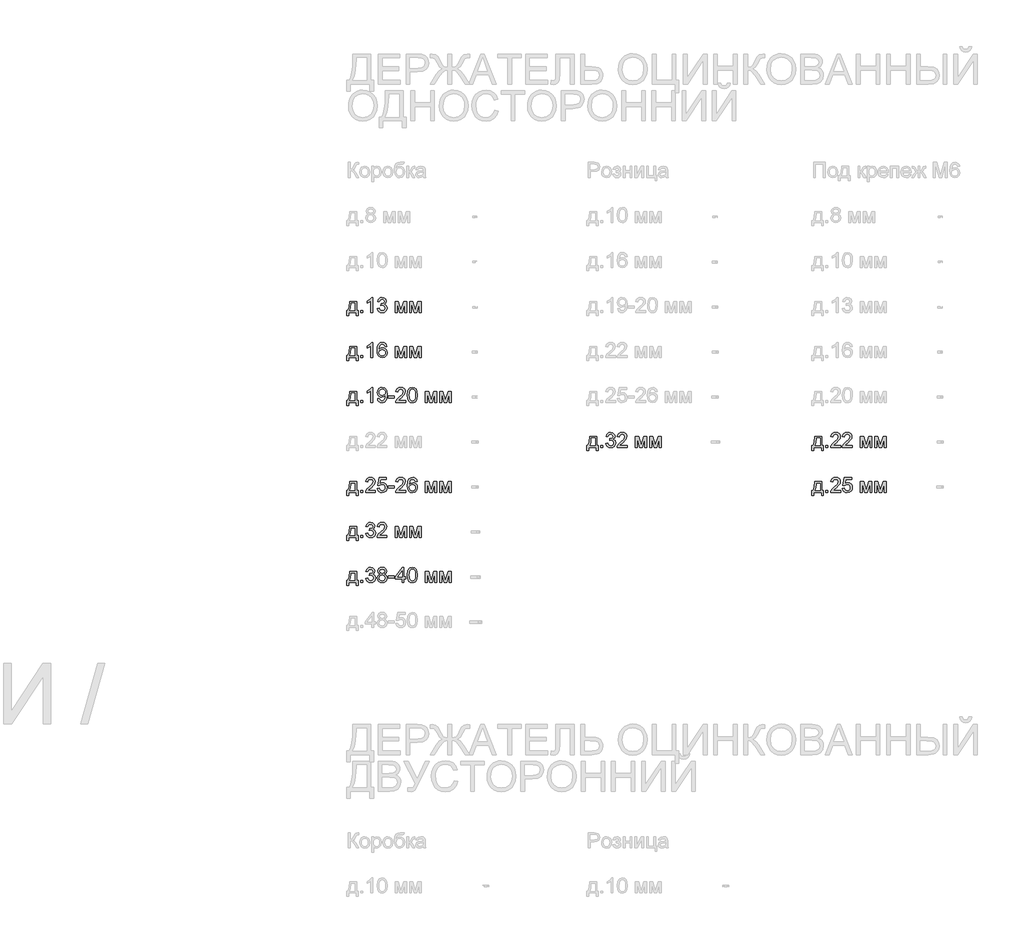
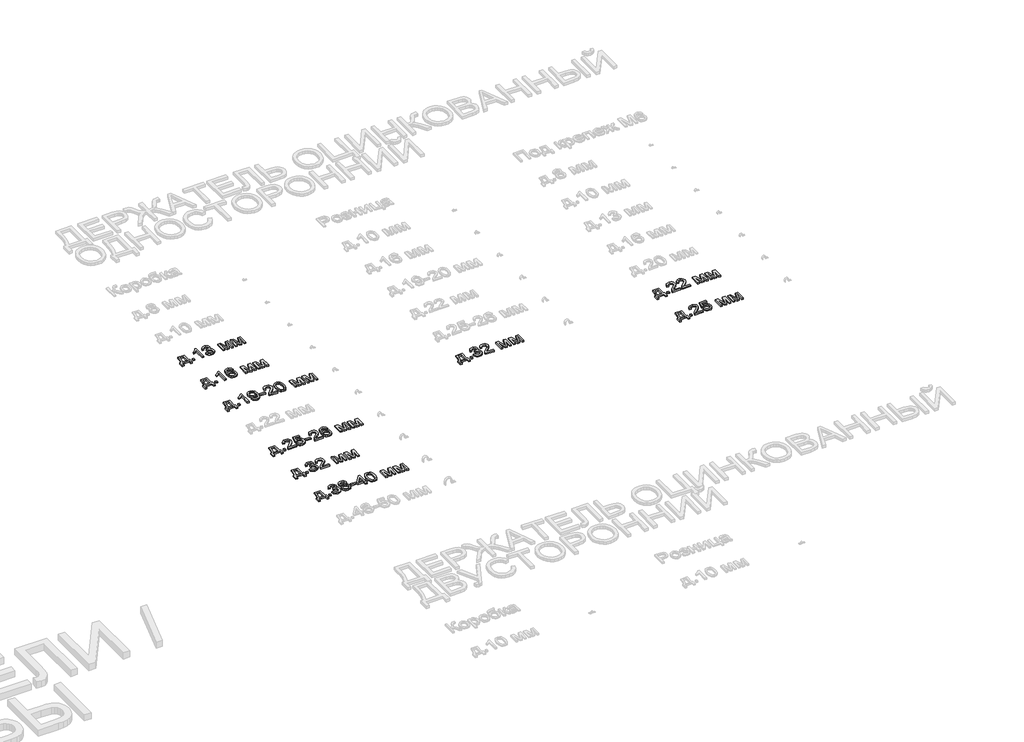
# One storey, part 38 of 98: 9 proxies.
"""IFC4 building model written with IfcOpenShell, lengths in millimetres."""

from ifc_helpers import new_model, si_unit, origin, origin_with_axes, place, context, project, spatial, polyline, outline, extrude, element, save

model = new_model("IFC4")

# Units and contexts
model_context = context("Model", 3, world=origin())
ifc_project = project(units=[si_unit("LENGTHUNIT", "METRE", prefix="MILLI")], contexts=[model_context])

# Site, building, storey
site = spatial("IfcSite", under=ifc_project)
building = spatial("IfcBuilding", under=site)
storey = spatial("IfcBuildingStorey", under=building, Name="Этаж 01", Elevation=0.0)

# Proxies
placement = place(None, origin())
element("IfcBuildingElementProxy", 1, Name="100", ObjectType="100", at=placement, inside=storey, context=model_context, shape_type="SweptSolid", body=[
    extrude(outline(polyline([(-26.9858135, -33085.7395637), (20.1030819, -33085.7395637), (20.1030819, -33146.9551277), (29.520861, -33146.9551277), (29.520861, -33179.9173545), (16.9638222, -33179.9173545), (16.9638222, -33159.5121665), (-34.8339627, -33159.5121665), (-34.8339627, -33179.9173545), (-47.3910015, -33179.9173545), (-47.3910015, -33146.9551277), (-39.5428522, -33146.9551277), (-29.8430303, -33123.0060098), (-26.9858135, -33085.7395637)]), holes=[polyline([(-15.9984045, -33098.2966025), (-18.9414605, -33126.905559), (-25.4161836, -33146.9551277), (7.5460431, -33146.9551277), (7.5460431, -33098.2966025), (-15.9984045, -33098.2966025)])]), origin_with_axes(), (0.0, 0.0, 1.0), 10.0),
    extrude(outline(polyline([(46.7867893, -33159.5121665), (46.7867893, -33146.9551277), (59.3438281, -33146.9551277), (59.3438281, -33159.5121665), (46.7867893, -33159.5121665)])), origin_with_axes(), (0.0, 0.0, 1.0), 10.0),
    extrude(outline(polyline([(126.8379114, -33159.5121665), (114.2808727, -33159.5121665), (114.2808727, -33081.2268779), (102.3860215, -33089.7004265), (89.1667951, -33096.0402596), (89.1667951, -33084.1699338), (107.5731576, -33072.4222355), (118.7445076, -33059.0558563), (126.8379114, -33059.0558563), (126.8379114, -33159.5121665)])), origin_with_axes(), (0.0, 0.0, 1.0), 10.0),
    extrude(outline(polyline([(156.6608785, -33132.8284591), (169.2179173, -33131.2588292), (176.1463615, -33144.4780556), (189.1080705, -33148.5247575), (197.7165092, -33147.1329373), (204.3629106, -33142.9574767), (210.0282933, -33129.1741646), (204.4119615, -33116.1879302), (190.1381401, -33111.049845), (181.3334977, -33112.4232711), (182.7314492, -33099.8662323), (184.7425375, -33100.0133851), (198.9918334, -33096.4081416), (203.7375112, -33091.8341421), (205.3194038, -33085.3226308), (200.7331415, -33075.5001815), (188.9118668, -33071.6128951), (176.9434392, -33075.5369697), (170.7875471, -33087.3091935), (158.2305084, -33085.7395637), (161.9277224, -33074.4639805), (168.5066788, -33066.0456142), (177.5075249, -33060.8032958), (188.4704084, -33059.0558563), (203.6148838, -33062.5016843), (214.2098853, -33071.9194634), (217.8764425, -33084.5868668), (214.3938263, -33096.1628869), (204.0931304, -33104.47702), (217.7783407, -33113.0609332), (222.5853321, -33129.3948938), (220.1818364, -33141.6331015), (212.9713493, -33151.860221), (202.0881736, -33158.7764025), (188.6666121, -33161.0817963), (176.5265063, -33159.1136276), (166.6427433, -33153.2091216), (159.7694814, -33144.1776186), (156.6608785, -33132.8284591)])), origin_with_axes(), (0.0, 0.0, 1.0), 10.0),
    extrude(outline(polyline([(275.9527468, -33085.7395637), (297.5596827, -33085.7395637), (314.2124743, -33144.7968867), (332.1651157, -33085.7395637), (352.8646093, -33085.7395637), (352.8646093, -33159.5121665), (340.3075705, -33159.5121665), (340.3075705, -33100.111487), (322.2568273, -33159.5121665), (305.7757139, -33159.5121665), (288.5097856, -33097.2665329), (288.5097856, -33159.5121665), (275.9527468, -33159.5121665), (275.9527468, -33085.7395637)])), origin_with_axes(), (0.0, 0.0, 1.0), 10.0),
    extrude(outline(polyline([(371.7001674, -33085.7395637), (393.3071033, -33085.7395637), (409.9598949, -33144.7968867), (427.9125363, -33085.7395637), (448.6120299, -33085.7395637), (448.6120299, -33159.5121665), (436.0549911, -33159.5121665), (436.0549911, -33100.111487), (418.0042479, -33159.5121665), (401.5231345, -33159.5121665), (384.2572062, -33097.2665329), (384.2572062, -33159.5121665), (371.7001674, -33159.5121665), (371.7001674, -33085.7395637)])), origin_with_axes(), (0.0, 0.0, 1.0), 10.0),
])
element("IfcBuildingElementProxy", 2, Name="100", ObjectType="100", at=placement, inside=storey, context=model_context, shape_type="SweptSolid", body=[
    extrude(outline(polyline([(-26.9858135, -33385.7395637), (20.1030819, -33385.7395637), (20.1030819, -33446.9551277), (29.520861, -33446.9551277), (29.520861, -33479.9173545), (16.9638222, -33479.9173545), (16.9638222, -33459.5121665), (-34.8339627, -33459.5121665), (-34.8339627, -33479.9173545), (-47.3910015, -33479.9173545), (-47.3910015, -33446.9551277), (-39.5428522, -33446.9551277), (-29.8430303, -33423.0060098), (-26.9858135, -33385.7395637)]), holes=[polyline([(-15.9984045, -33398.2966025), (-18.9414605, -33426.905559), (-25.4161836, -33446.9551277), (7.5460431, -33446.9551277), (7.5460431, -33398.2966025), (-15.9984045, -33398.2966025)])]), origin_with_axes(), (0.0, 0.0, 1.0), 10.0),
    extrude(outline(polyline([(46.7867893, -33459.5121665), (46.7867893, -33446.9551277), (59.3438281, -33446.9551277), (59.3438281, -33459.5121665), (46.7867893, -33459.5121665)])), origin_with_axes(), (0.0, 0.0, 1.0), 10.0),
    extrude(outline(polyline([(126.8379114, -33459.5121665), (114.2808727, -33459.5121665), (114.2808727, -33381.2268779), (102.3860215, -33389.7004265), (89.1667951, -33396.0402596), (89.1667951, -33384.1699338), (107.5731576, -33372.4222355), (118.7445076, -33359.0558563), (126.8379114, -33359.0558563), (126.8379114, -33459.5121665)])), origin_with_axes(), (0.0, 0.0, 1.0), 10.0),
    extrude(outline(polyline([(221.0157022, -33385.7395637), (208.4586634, -33387.3091935), (203.700723, -33376.8368194), (191.1191587, -33371.6128951), (179.7883933, -33374.6540529), (171.2167428, -33386.0706575), (167.6482874, -33408.4501455), (178.7215355, -33398.4314925), (192.4435339, -33395.1573428), (204.0440795, -33397.3952916), (213.7806896, -33404.109138), (220.3841715, -33414.3669143), (222.5853321, -33427.2366527), (218.4405282, -33444.5638947), (207.0361864, -33456.8266279), (190.5795985, -33461.0817963), (176.3333682, -33458.2613677), (164.9872743, -33449.8000818), (157.5652551, -33434.8640728), (155.0912487, -33412.6194748), (157.8381009, -33387.6096305), (166.0786576, -33370.5092491), (177.3297153, -33361.9192045), (191.9039737, -33359.0558563), (202.9220394, -33360.8278213), (211.7450759, -33366.1437161), (217.9254935, -33374.5866079), (221.0157022, -33385.7395637)]), holes=[polyline([(167.6482874, -33427.040449), (170.5545552, -33437.9174933), (178.2800771, -33445.8146935), (189.5985798, -33448.5247575), (197.8851218, -33447.1206746), (204.3996988, -33442.9084257), (208.6211447, -33436.2865498), (210.0282933, -33427.6535857), (208.6395388, -33419.3670437), (204.4732752, -33413.0486705), (197.8483336, -33409.0479538), (189.083545, -33407.7143815), (173.8900186, -33413.0486705), (169.2087202, -33419.2137596), (167.6482874, -33427.040449)])]), origin_with_axes(), (0.0, 0.0, 1.0), 10.0),
    extrude(outline(polyline([(275.9527468, -33385.7395637), (297.5596827, -33385.7395637), (314.2124743, -33444.7968867), (332.1651157, -33385.7395637), (352.8646093, -33385.7395637), (352.8646093, -33459.5121665), (340.3075705, -33459.5121665), (340.3075705, -33400.111487), (322.2568273, -33459.5121665), (305.7757139, -33459.5121665), (288.5097856, -33397.2665329), (288.5097856, -33459.5121665), (275.9527468, -33459.5121665), (275.9527468, -33385.7395637)])), origin_with_axes(), (0.0, 0.0, 1.0), 10.0),
    extrude(outline(polyline([(371.7001674, -33385.7395637), (393.3071033, -33385.7395637), (409.9598949, -33444.7968867), (427.9125363, -33385.7395637), (448.6120299, -33385.7395637), (448.6120299, -33459.5121665), (436.0549911, -33459.5121665), (436.0549911, -33400.111487), (418.0042479, -33459.5121665), (401.5231345, -33459.5121665), (384.2572062, -33397.2665329), (384.2572062, -33459.5121665), (371.7001674, -33459.5121665), (371.7001674, -33385.7395637)])), origin_with_axes(), (0.0, 0.0, 1.0), 10.0),
])
element("IfcBuildingElementProxy", 3, Name="100", ObjectType="100", at=placement, inside=storey, context=model_context, shape_type="SweptSolid", body=[
    extrude(outline(polyline([(-26.9858135, -33685.7395637), (20.1030819, -33685.7395637), (20.1030819, -33746.9551277), (29.520861, -33746.9551277), (29.520861, -33779.9173545), (16.9638222, -33779.9173545), (16.9638222, -33759.5121665), (-34.8339627, -33759.5121665), (-34.8339627, -33779.9173545), (-47.3910015, -33779.9173545), (-47.3910015, -33746.9551277), (-39.5428522, -33746.9551277), (-29.8430303, -33723.0060098), (-26.9858135, -33685.7395637)]), holes=[polyline([(-15.9984045, -33698.2966025), (-18.9414605, -33726.905559), (-25.4161836, -33746.9551277), (7.5460431, -33746.9551277), (7.5460431, -33698.2966025), (-15.9984045, -33698.2966025)])]), origin_with_axes(), (0.0, 0.0, 1.0), 10.0),
    extrude(outline(polyline([(46.7867893, -33759.5121665), (46.7867893, -33746.9551277), (59.3438281, -33746.9551277), (59.3438281, -33759.5121665), (46.7867893, -33759.5121665)])), origin_with_axes(), (0.0, 0.0, 1.0), 10.0),
    extrude(outline(polyline([(126.8379114, -33759.5121665), (114.2808727, -33759.5121665), (114.2808727, -33681.2268779), (102.3860215, -33689.7004265), (89.1667951, -33696.0402596), (89.1667951, -33684.1699338), (107.5731576, -33672.4222355), (118.7445076, -33659.0558563), (126.8379114, -33659.0558563), (126.8379114, -33759.5121665)])), origin_with_axes(), (0.0, 0.0, 1.0), 10.0),
    extrude(outline(polyline([(158.2305084, -33734.3980889), (170.7875471, -33732.8284591), (176.4284044, -33744.8091494), (187.1215077, -33748.5247575), (197.2873135, -33746.1335246), (204.1789696, -33739.7446406), (208.2869852, -33728.8308081), (210.1018697, -33714.2626811), (210.0282933, -33711.8101344), (199.9851148, -33721.3260154), (186.2140655, -33724.9803098), (174.7637384, -33722.7484924), (165.232529, -33716.0530401), (158.8037911, -33705.7094247), (156.6608785, -33692.5331179), (158.9080244, -33678.921484), (165.6494619, -33668.2529062), (175.7754139, -33661.3551188), (188.1761028, -33659.0558563), (206.0674305, -33664.3043061), (218.3792146, -33679.2648406), (222.5853321, -33707.371025), (218.3914773, -33737.8684424), (213.17675, -33747.8595043), (205.9202777, -33755.1466334), (196.9347599, -33759.5980056), (186.5328965, -33761.0817963), (175.7968736, -33759.3312911), (167.2313545, -33754.0797757), (161.2410094, -33745.6583437), (158.2305084, -33734.3980889)]), holes=[polyline([(210.0282933, -33692.2388123), (208.6732613, -33683.7284755), (204.6081652, -33677.1801759), (198.298989, -33673.0047153), (190.2117165, -33671.6128951), (181.824007, -33673.1120142), (175.1040292, -33677.6093716), (170.6894453, -33684.4918306), (169.2179173, -33693.1462545), (170.6097375, -33700.9054989), (174.7851982, -33707.0644567), (181.339629, -33711.0835675), (189.86836, -33712.4232711), (204.3506478, -33707.0644567), (208.6088819, -33700.6786384), (210.0282933, -33692.2388123)])]), origin_with_axes(), (0.0, 0.0, 1.0), 10.0),
    extrude(outline(polyline([(230.4334813, -33729.6891994), (230.4334813, -33717.1321606), (269.6742274, -33717.1321606), (269.6742274, -33729.6891994), (230.4334813, -33729.6891994)])), origin_with_axes(), (0.0, 0.0, 1.0), 10.0),
    extrude(outline(polyline([(345.0164601, -33746.9551277), (345.0164601, -33759.5121665), (279.0920065, -33759.5121665), (280.4409072, -33750.8546768), (288.0683272, -33737.5250859), (303.7891511, -33722.9692216), (325.4696634, -33702.0489988), (330.8897914, -33687.8242283), (325.7762317, -33676.3095219), (312.4221153, -33671.6128951), (298.5039131, -33676.1991573), (293.2186751, -33688.8788234), (280.6616364, -33687.3091935), (283.7058599, -33675.1629563), (290.2878819, -33666.2908689), (300.0643459, -33660.8646095), (312.6918954, -33659.0558563), (325.4114154, -33661.0669445), (335.1694853, -33667.1002093), (341.377494, -33676.1133182), (343.4468302, -33687.0639389), (341.2150128, -33698.9710528), (333.7960592, -33711.2828369), (315.8066296, -33728.4874515), (301.36113, -33740.5662437), (295.6957472, -33746.9551277), (345.0164601, -33746.9551277)])), origin_with_axes(), (0.0, 0.0, 1.0), 10.0),
    extrude(outline(polyline([(357.5734988, -33710.0933518), (361.2645815, -33681.1900897), (372.227465, -33664.5250353), (390.5357256, -33659.0558563), (405.2019545, -33662.2932179), (415.3309721, -33671.6251578), (421.217084, -33686.4875904), (423.4979524, -33710.0933518), (419.8436579, -33738.8739865), (408.9175626, -33755.5758291), (400.686203, -33759.7053045), (390.5357256, -33761.0817963), (377.4881775, -33758.6905633), (367.5798891, -33751.5168644), (360.0750964, -33734.5268476), (357.5734988, -33710.0933518)]), holes=[polyline([(370.1305376, -33710.0688263), (371.6020656, -33729.8210238), (376.0166495, -33741.2529568), (382.5894745, -33746.7068073), (390.5357256, -33748.5247575), (398.4819767, -33746.700676), (405.0548017, -33741.2284313), (409.4693856, -33729.7903669), (410.9409136, -33710.0688263), (409.5184365, -33690.7611529), (405.2510054, -33679.2403151), (398.6904431, -33673.5197501), (390.3885728, -33671.6128951), (382.5281608, -33673.2928895), (376.2128532, -33678.3328729), (371.6511165, -33690.5710806), (370.1305376, -33710.0688263)])]), origin_with_axes(), (0.0, 0.0, 1.0), 10.0),
    extrude(outline(polyline([(476.8653671, -33685.7395637), (498.472303, -33685.7395637), (515.1250946, -33744.7968867), (533.077736, -33685.7395637), (553.7772296, -33685.7395637), (553.7772296, -33759.5121665), (541.2201908, -33759.5121665), (541.2201908, -33700.111487), (523.1694476, -33759.5121665), (506.6883342, -33759.5121665), (489.4224059, -33697.2665329), (489.4224059, -33759.5121665), (476.8653671, -33759.5121665), (476.8653671, -33685.7395637)])), origin_with_axes(), (0.0, 0.0, 1.0), 10.0),
    extrude(outline(polyline([(572.6127877, -33685.7395637), (594.2197236, -33685.7395637), (610.8725152, -33744.7968867), (628.8251566, -33685.7395637), (649.5246502, -33685.7395637), (649.5246502, -33759.5121665), (636.9676114, -33759.5121665), (636.9676114, -33700.111487), (618.9168682, -33759.5121665), (602.4357548, -33759.5121665), (585.1698265, -33697.2665329), (585.1698265, -33759.5121665), (572.6127877, -33759.5121665), (572.6127877, -33685.7395637)])), origin_with_axes(), (0.0, 0.0, 1.0), 10.0),
])
element("IfcBuildingElementProxy", 4, Name="100", ObjectType="100", at=placement, inside=storey, context=model_context, shape_type="SweptSolid", body=[
    extrude(outline(polyline([(-26.9858135, -34285.7395637), (20.1030819, -34285.7395637), (20.1030819, -34346.9551277), (29.520861, -34346.9551277), (29.520861, -34379.9173545), (16.9638222, -34379.9173545), (16.9638222, -34359.5121665), (-34.8339627, -34359.5121665), (-34.8339627, -34379.9173545), (-47.3910015, -34379.9173545), (-47.3910015, -34346.9551277), (-39.5428522, -34346.9551277), (-29.8430303, -34323.0060098), (-26.9858135, -34285.7395637)]), holes=[polyline([(-15.9984045, -34298.2966025), (-18.9414605, -34326.905559), (-25.4161836, -34346.9551277), (7.5460431, -34346.9551277), (7.5460431, -34298.2966025), (-15.9984045, -34298.2966025)])]), origin_with_axes(), (0.0, 0.0, 1.0), 10.0),
    extrude(outline(polyline([(46.7867893, -34359.5121665), (46.7867893, -34346.9551277), (59.3438281, -34346.9551277), (59.3438281, -34359.5121665), (46.7867893, -34359.5121665)])), origin_with_axes(), (0.0, 0.0, 1.0), 10.0),
    extrude(outline(polyline([(144.1038398, -34346.9551277), (144.1038398, -34359.5121665), (78.1793862, -34359.5121665), (79.5282869, -34350.8546768), (87.1557069, -34337.5250859), (102.8765308, -34322.9692216), (124.5570431, -34302.0489988), (129.9771711, -34287.8242283), (124.8636114, -34276.3095219), (111.509495, -34271.6128951), (97.5912928, -34276.1991573), (92.3060548, -34288.8788234), (79.7490161, -34287.3091935), (82.7932396, -34275.1629563), (89.3752616, -34266.2908689), (99.1517256, -34260.8646095), (111.7792751, -34259.0558563), (124.4987951, -34261.0669445), (134.256865, -34267.1002093), (140.4648737, -34276.1133182), (142.5342099, -34287.0639389), (140.3023925, -34298.9710528), (132.8834389, -34311.2828369), (114.8940093, -34328.4874515), (100.4485097, -34340.5662437), (94.7831269, -34346.9551277), (144.1038398, -34346.9551277)])), origin_with_axes(), (0.0, 0.0, 1.0), 10.0),
    extrude(outline(polyline([(156.6608785, -34332.8284591), (169.2179173, -34331.2588292), (175.5454876, -34344.1960127), (188.6666121, -34348.5247575), (197.6674583, -34347.019507), (204.4119615, -34342.5037555), (208.6242103, -34335.4986692), (210.0282933, -34326.5254142), (204.7675808, -34311.6139307), (198.1610333, -34307.5120464), (188.8628158, -34306.1447517), (177.8386187, -34308.3275182), (170.7875471, -34313.9929009), (158.2305084, -34312.4232711), (169.2179173, -34260.6254862), (217.8764425, -34260.6254862), (217.8764425, -34273.1825249), (179.3714604, -34273.1825249), (174.0003832, -34300.847251), (182.9705725, -34295.4025974), (192.3699575, -34293.5877129), (204.1023275, -34295.8379245), (213.8420033, -34302.5885591), (220.3994999, -34312.8769922), (222.5853321, -34325.7405993), (220.6171634, -34338.2976381), (214.7126574, -34349.0397923), (203.4064174, -34358.0712953), (188.6175612, -34361.0817963), (176.2843173, -34359.1473501), (166.4588023, -34353.3440117), (159.7234961, -34344.3462312), (156.6608785, -34332.8284591)])), origin_with_axes(), (0.0, 0.0, 1.0), 10.0),
    extrude(outline(polyline([(230.4334813, -34329.6891994), (230.4334813, -34317.1321606), (269.6742274, -34317.1321606), (269.6742274, -34329.6891994), (230.4334813, -34329.6891994)])), origin_with_axes(), (0.0, 0.0, 1.0), 10.0),
    extrude(outline(polyline([(345.0164601, -34346.9551277), (345.0164601, -34359.5121665), (279.0920065, -34359.5121665), (280.4409072, -34350.8546768), (288.0683272, -34337.5250859), (303.7891511, -34322.9692216), (325.4696634, -34302.0489988), (330.8897914, -34287.8242283), (325.7762317, -34276.3095219), (312.4221153, -34271.6128951), (298.5039131, -34276.1991573), (293.2186751, -34288.8788234), (280.6616364, -34287.3091935), (283.7058599, -34275.1629563), (290.2878819, -34266.2908689), (300.0643459, -34260.8646095), (312.6918954, -34259.0558563), (325.4114154, -34261.0669445), (335.1694853, -34267.1002093), (341.377494, -34276.1133182), (343.4468302, -34287.0639389), (341.2150128, -34298.9710528), (333.7960592, -34311.2828369), (315.8066296, -34328.4874515), (301.36113, -34340.5662437), (295.6957472, -34346.9551277), (345.0164601, -34346.9551277)])), origin_with_axes(), (0.0, 0.0, 1.0), 10.0),
    extrude(outline(polyline([(421.9283225, -34285.7395637), (409.3712837, -34287.3091935), (404.6133433, -34276.8368194), (392.031779, -34271.6128951), (380.7010136, -34274.6540529), (372.1293631, -34286.0706575), (368.5609077, -34308.4501455), (379.6341558, -34298.4314925), (393.3561542, -34295.1573428), (404.9566998, -34297.3952916), (414.6933099, -34304.109138), (421.2967918, -34314.3669143), (423.4979524, -34327.2366527), (419.3531485, -34344.5638947), (407.9488067, -34356.8266279), (391.4922188, -34361.0817963), (377.2459885, -34358.2613677), (365.8998946, -34349.8000818), (358.4778754, -34334.8640728), (356.003869, -34312.6194748), (358.7507212, -34287.6096305), (366.9912779, -34270.5092491), (378.2423356, -34261.9192045), (392.816594, -34259.0558563), (403.8346597, -34260.8278213), (412.6576962, -34266.1437161), (418.8381138, -34274.5866079), (421.9283225, -34285.7395637)]), holes=[polyline([(368.5609077, -34327.040449), (371.4671755, -34337.9174933), (379.1926974, -34345.8146935), (390.5112001, -34348.5247575), (398.7977421, -34347.1206746), (405.3123191, -34342.9084257), (409.533765, -34336.2865498), (410.9409136, -34327.6535857), (409.5521591, -34319.3670437), (405.3858955, -34313.0486705), (398.7609539, -34309.0479538), (389.9961653, -34307.7143815), (374.8026389, -34313.0486705), (370.1213405, -34319.2137596), (368.5609077, -34327.040449)])]), origin_with_axes(), (0.0, 0.0, 1.0), 10.0),
    extrude(outline(polyline([(476.8653671, -34285.7395637), (498.472303, -34285.7395637), (515.1250946, -34344.7968867), (533.077736, -34285.7395637), (553.7772296, -34285.7395637), (553.7772296, -34359.5121665), (541.2201908, -34359.5121665), (541.2201908, -34300.111487), (523.1694476, -34359.5121665), (506.6883342, -34359.5121665), (489.4224059, -34297.2665329), (489.4224059, -34359.5121665), (476.8653671, -34359.5121665), (476.8653671, -34285.7395637)])), origin_with_axes(), (0.0, 0.0, 1.0), 10.0),
    extrude(outline(polyline([(572.6127877, -34285.7395637), (594.2197236, -34285.7395637), (610.8725152, -34344.7968867), (628.8251566, -34285.7395637), (649.5246502, -34285.7395637), (649.5246502, -34359.5121665), (636.9676114, -34359.5121665), (636.9676114, -34300.111487), (618.9168682, -34359.5121665), (602.4357548, -34359.5121665), (585.1698265, -34297.2665329), (585.1698265, -34359.5121665), (572.6127877, -34359.5121665), (572.6127877, -34285.7395637)])), origin_with_axes(), (0.0, 0.0, 1.0), 10.0),
])
element("IfcBuildingElementProxy", 5, Name="100", ObjectType="100", at=placement, inside=storey, context=model_context, shape_type="SweptSolid", body=[
    extrude(outline(polyline([(-26.9858135, -34585.7395637), (20.1030819, -34585.7395637), (20.1030819, -34646.9551277), (29.520861, -34646.9551277), (29.520861, -34679.9173545), (16.9638222, -34679.9173545), (16.9638222, -34659.5121665), (-34.8339627, -34659.5121665), (-34.8339627, -34679.9173545), (-47.3910015, -34679.9173545), (-47.3910015, -34646.9551277), (-39.5428522, -34646.9551277), (-29.8430303, -34623.0060098), (-26.9858135, -34585.7395637)]), holes=[polyline([(-15.9984045, -34598.2966025), (-18.9414605, -34626.905559), (-25.4161836, -34646.9551277), (7.5460431, -34646.9551277), (7.5460431, -34598.2966025), (-15.9984045, -34598.2966025)])]), origin_with_axes(), (0.0, 0.0, 1.0), 10.0),
    extrude(outline(polyline([(46.7867893, -34659.5121665), (46.7867893, -34646.9551277), (59.3438281, -34646.9551277), (59.3438281, -34659.5121665), (46.7867893, -34659.5121665)])), origin_with_axes(), (0.0, 0.0, 1.0), 10.0),
    extrude(outline(polyline([(79.7490161, -34632.8284591), (92.3060548, -34631.2588292), (99.2344991, -34644.4780556), (112.196208, -34648.5247575), (120.8046467, -34647.1329373), (127.4510481, -34642.9574767), (133.1164308, -34629.1741646), (127.500099, -34616.1879302), (113.2262776, -34611.049845), (104.4216352, -34612.4232711), (105.8195868, -34599.8662323), (107.830675, -34600.0133851), (122.079971, -34596.4081416), (126.8256487, -34591.8341421), (128.4075413, -34585.3226308), (123.8212791, -34575.5001815), (112.0000043, -34571.6128951), (100.0315767, -34575.5369697), (93.8756847, -34587.3091935), (81.3186459, -34585.7395637), (85.01586, -34574.4639805), (91.5948163, -34566.0456142), (100.5956625, -34560.8032958), (111.5585459, -34559.0558563), (126.7030214, -34562.5016843), (137.2980228, -34571.9194634), (140.9645801, -34584.5868668), (137.4819638, -34596.1628869), (127.181268, -34604.47702), (140.8664782, -34613.0609332), (145.6734696, -34629.3948938), (143.2699739, -34641.6331015), (136.0594868, -34651.860221), (125.1763111, -34658.7764025), (111.7547496, -34661.0817963), (99.6146438, -34659.1136276), (89.7308809, -34653.2091216), (82.8576189, -34644.1776186), (79.7490161, -34632.8284591)])), origin_with_axes(), (0.0, 0.0, 1.0), 10.0),
    extrude(outline(polyline([(221.0157022, -34646.9551277), (221.0157022, -34659.5121665), (155.0912487, -34659.5121665), (156.4401493, -34650.8546768), (164.0675694, -34637.5250859), (179.7883933, -34622.9692216), (201.4689055, -34602.0489988), (206.8890336, -34587.8242283), (201.7754739, -34576.3095219), (188.4213574, -34571.6128951), (174.5031553, -34576.1991573), (169.2179173, -34588.8788234), (156.6608785, -34587.3091935), (159.705102, -34575.1629563), (166.2871241, -34566.2908689), (176.0635881, -34560.8646095), (188.6911376, -34559.0558563), (201.4106576, -34561.0669445), (211.1687275, -34567.1002093), (217.3767361, -34576.1133182), (219.4460724, -34587.0639389), (217.2142549, -34598.9710528), (209.7953014, -34611.2828369), (191.8058718, -34628.4874515), (177.3603721, -34640.5662437), (171.6949894, -34646.9551277), (221.0157022, -34646.9551277)])), origin_with_axes(), (0.0, 0.0, 1.0), 10.0),
    extrude(outline(polyline([(275.9527468, -34585.7395637), (297.5596827, -34585.7395637), (314.2124743, -34644.7968867), (332.1651157, -34585.7395637), (352.8646093, -34585.7395637), (352.8646093, -34659.5121665), (340.3075705, -34659.5121665), (340.3075705, -34600.111487), (322.2568273, -34659.5121665), (305.7757139, -34659.5121665), (288.5097856, -34597.2665329), (288.5097856, -34659.5121665), (275.9527468, -34659.5121665), (275.9527468, -34585.7395637)])), origin_with_axes(), (0.0, 0.0, 1.0), 10.0),
    extrude(outline(polyline([(371.7001674, -34585.7395637), (393.3071033, -34585.7395637), (409.9598949, -34644.7968867), (427.9125363, -34585.7395637), (448.6120299, -34585.7395637), (448.6120299, -34659.5121665), (436.0549911, -34659.5121665), (436.0549911, -34600.111487), (418.0042479, -34659.5121665), (401.5231345, -34659.5121665), (384.2572062, -34597.2665329), (384.2572062, -34659.5121665), (371.7001674, -34659.5121665), (371.7001674, -34585.7395637)])), origin_with_axes(), (0.0, 0.0, 1.0), 10.0),
])
element("IfcBuildingElementProxy", 6, Name="100", ObjectType="100", at=placement, inside=storey, context=model_context, shape_type="SweptSolid", body=[
    extrude(outline(polyline([(-26.9858135, -34885.7395637), (20.1030819, -34885.7395637), (20.1030819, -34946.9551277), (29.520861, -34946.9551277), (29.520861, -34979.9173545), (16.9638222, -34979.9173545), (16.9638222, -34959.5121665), (-34.8339627, -34959.5121665), (-34.8339627, -34979.9173545), (-47.3910015, -34979.9173545), (-47.3910015, -34946.9551277), (-39.5428522, -34946.9551277), (-29.8430303, -34923.0060098), (-26.9858135, -34885.7395637)]), holes=[polyline([(-15.9984045, -34898.2966025), (-18.9414605, -34926.905559), (-25.4161836, -34946.9551277), (7.5460431, -34946.9551277), (7.5460431, -34898.2966025), (-15.9984045, -34898.2966025)])]), origin_with_axes(), (0.0, 0.0, 1.0), 10.0),
    extrude(outline(polyline([(46.7867893, -34959.5121665), (46.7867893, -34946.9551277), (59.3438281, -34946.9551277), (59.3438281, -34959.5121665), (46.7867893, -34959.5121665)])), origin_with_axes(), (0.0, 0.0, 1.0), 10.0),
    extrude(outline(polyline([(79.7490161, -34932.8284591), (92.3060548, -34931.2588292), (99.2344991, -34944.4780556), (112.196208, -34948.5247575), (120.8046467, -34947.1329373), (127.4510481, -34942.9574767), (133.1164308, -34929.1741646), (127.500099, -34916.1879302), (113.2262776, -34911.049845), (104.4216352, -34912.4232711), (105.8195868, -34899.8662323), (107.830675, -34900.0133851), (122.079971, -34896.4081416), (126.8256487, -34891.8341421), (128.4075413, -34885.3226308), (123.8212791, -34875.5001815), (112.0000043, -34871.6128951), (100.0315767, -34875.5369697), (93.8756847, -34887.3091935), (81.3186459, -34885.7395637), (85.01586, -34874.4639805), (91.5948163, -34866.0456142), (100.5956625, -34860.8032958), (111.5585459, -34859.0558563), (126.7030214, -34862.5016843), (137.2980228, -34871.9194634), (140.9645801, -34884.5868668), (137.4819638, -34896.1628869), (127.181268, -34904.47702), (140.8664782, -34913.0609332), (145.6734696, -34929.3948938), (143.2699739, -34941.6331015), (136.0594868, -34951.860221), (125.1763111, -34958.7764025), (111.7547496, -34961.0817963), (99.6146438, -34959.1136276), (89.7308809, -34953.2091216), (82.8576189, -34944.1776186), (79.7490161, -34932.8284591)])), origin_with_axes(), (0.0, 0.0, 1.0), 10.0),
    extrude(outline(polyline([(174.9568764, -34904.1827144), (163.5157464, -34896.3836161), (159.8001382, -34884.2435102), (161.8234892, -34874.4271923), (167.8935421, -34866.3153943), (177.3297153, -34860.8707408), (189.451427, -34859.0558563), (201.6467152, -34860.9136604), (211.2055157, -34866.4870726), (217.3859332, -34874.7276293), (219.4460724, -34884.5868668), (215.7795151, -34896.4204043), (204.6572162, -34904.1827144), (218.0113326, -34914.0296891), (222.5853321, -34930.2778106), (220.3167264, -34942.2830264), (213.5109095, -34952.2035775), (203.0017472, -34958.8622416), (189.6231053, -34961.0817963), (176.2444634, -34958.8530446), (165.7353011, -34952.1667893), (158.9294842, -34942.151202), (156.6608785, -34929.934454), (161.418819, -34913.3061879), (174.9568764, -34904.1827144)]), holes=[polyline([(169.2179173, -34929.4929957), (171.3148447, -34938.9475629), (178.7337982, -34946.02316), (189.7212072, -34948.5247575), (198.2683322, -34947.2095794), (204.6817416, -34943.264045), (210.0282933, -34929.8854031), (204.5100634, -34916.2492438), (197.9495011, -34912.2025419), (189.3042742, -34910.8536412), (180.8767109, -34912.1841478), (174.5276808, -34916.1756674), (169.2179173, -34929.4929957)]), polyline([(172.357177, -34884.6113922), (176.8085491, -34894.4706297), (189.7702581, -34898.2966025), (202.4744497, -34894.4951552), (206.8890336, -34885.175478), (202.3272969, -34875.524707), (189.6231053, -34871.6128951), (176.8821255, -34875.4388678), (172.357177, -34884.6113922)])]), origin_with_axes(), (0.0, 0.0, 1.0), 10.0),
    extrude(outline(polyline([(230.4334813, -34929.6891994), (230.4334813, -34917.1321606), (269.6742274, -34917.1321606), (269.6742274, -34929.6891994), (230.4334813, -34929.6891994)])), origin_with_axes(), (0.0, 0.0, 1.0), 10.0),
    extrude(outline(polyline([(321.4720124, -34959.5121665), (321.4720124, -34935.9677188), (275.9527468, -34935.9677188), (275.9527468, -34923.41068), (324.6112721, -34860.6254862), (334.0290511, -34860.6254862), (334.0290511, -34923.41068), (346.5860899, -34923.41068), (346.5860899, -34935.9677188), (334.0290511, -34935.9677188), (334.0290511, -34959.5121665), (321.4720124, -34959.5121665)]), holes=[polyline([(321.4720124, -34923.41068), (321.4720124, -34884.6113922), (291.4037906, -34923.41068), (321.4720124, -34923.41068)])]), origin_with_axes(), (0.0, 0.0, 1.0), 10.0),
    extrude(outline(polyline([(357.5734988, -34910.0933518), (361.2645815, -34881.1900897), (372.227465, -34864.5250353), (390.5357256, -34859.0558563), (405.2019545, -34862.2932179), (415.3309721, -34871.6251578), (421.217084, -34886.4875904), (423.4979524, -34910.0933518), (419.8436579, -34938.8739865), (408.9175626, -34955.5758291), (400.686203, -34959.7053045), (390.5357256, -34961.0817963), (377.4881775, -34958.6905633), (367.5798891, -34951.5168644), (360.0750964, -34934.5268476), (357.5734988, -34910.0933518)]), holes=[polyline([(370.1305376, -34910.0688263), (371.6020656, -34929.8210238), (376.0166495, -34941.2529568), (382.5894745, -34946.7068073), (390.5357256, -34948.5247575), (398.4819767, -34946.700676), (405.0548017, -34941.2284313), (409.4693856, -34929.7903669), (410.9409136, -34910.0688263), (409.5184365, -34890.7611529), (405.2510054, -34879.2403151), (398.6904431, -34873.5197501), (390.3885728, -34871.6128951), (382.5281608, -34873.2928895), (376.2128532, -34878.3328729), (371.6511165, -34890.5710806), (370.1305376, -34910.0688263)])]), origin_with_axes(), (0.0, 0.0, 1.0), 10.0),
    extrude(outline(polyline([(476.8653671, -34885.7395637), (498.472303, -34885.7395637), (515.1250946, -34944.7968867), (533.077736, -34885.7395637), (553.7772296, -34885.7395637), (553.7772296, -34959.5121665), (541.2201908, -34959.5121665), (541.2201908, -34900.111487), (523.1694476, -34959.5121665), (506.6883342, -34959.5121665), (489.4224059, -34897.2665329), (489.4224059, -34959.5121665), (476.8653671, -34959.5121665), (476.8653671, -34885.7395637)])), origin_with_axes(), (0.0, 0.0, 1.0), 10.0),
    extrude(outline(polyline([(572.6127877, -34885.7395637), (594.2197236, -34885.7395637), (610.8725152, -34944.7968867), (628.8251566, -34885.7395637), (649.5246502, -34885.7395637), (649.5246502, -34959.5121665), (636.9676114, -34959.5121665), (636.9676114, -34900.111487), (618.9168682, -34959.5121665), (602.4357548, -34959.5121665), (585.1698265, -34897.2665329), (585.1698265, -34959.5121665), (572.6127877, -34959.5121665), (572.6127877, -34885.7395637)])), origin_with_axes(), (0.0, 0.0, 1.0), 10.0),
])
element("IfcBuildingElementProxy", 7, Name="100", ObjectType="100", at=placement, inside=storey, context=model_context, shape_type="SweptSolid", body=[
    extrude(outline(polyline([(1573.0141865, -33985.7395637), (1620.1030819, -33985.7395637), (1620.1030819, -34046.9551277), (1629.520861, -34046.9551277), (1629.520861, -34079.9173545), (1616.9638222, -34079.9173545), (1616.9638222, -34059.5121665), (1565.1660373, -34059.5121665), (1565.1660373, -34079.9173545), (1552.6089985, -34079.9173545), (1552.6089985, -34046.9551277), (1560.4571478, -34046.9551277), (1570.1569697, -34023.0060098), (1573.0141865, -33985.7395637)]), holes=[polyline([(1584.0015955, -33998.2966025), (1581.0585395, -34026.905559), (1574.5838164, -34046.9551277), (1607.5460431, -34046.9551277), (1607.5460431, -33998.2966025), (1584.0015955, -33998.2966025)])]), origin_with_axes(), (0.0, 0.0, 1.0), 10.0),
    extrude(outline(polyline([(1646.7867893, -34059.5121665), (1646.7867893, -34046.9551277), (1659.3438281, -34046.9551277), (1659.3438281, -34059.5121665), (1646.7867893, -34059.5121665)])), origin_with_axes(), (0.0, 0.0, 1.0), 10.0),
    extrude(outline(polyline([(1679.7490161, -34032.8284591), (1692.3060548, -34031.2588292), (1699.2344991, -34044.4780556), (1712.196208, -34048.5247575), (1720.8046467, -34047.1329373), (1727.4510481, -34042.9574767), (1733.1164308, -34029.1741646), (1727.500099, -34016.1879302), (1713.2262776, -34011.049845), (1704.4216352, -34012.4232711), (1705.8195868, -33999.8662323), (1707.830675, -34000.0133851), (1722.079971, -33996.4081416), (1726.8256487, -33991.8341421), (1728.4075413, -33985.3226308), (1723.8212791, -33975.5001815), (1712.0000043, -33971.6128951), (1700.0315767, -33975.5369697), (1693.8756847, -33987.3091935), (1681.3186459, -33985.7395637), (1685.01586, -33974.4639805), (1691.5948163, -33966.0456142), (1700.5956625, -33960.8032958), (1711.5585459, -33959.0558563), (1726.7030214, -33962.5016843), (1737.2980228, -33971.9194634), (1740.9645801, -33984.5868668), (1737.4819638, -33996.1628869), (1727.181268, -34004.47702), (1740.8664782, -34013.0609332), (1745.6734696, -34029.3948938), (1743.2699739, -34041.6331015), (1736.0594868, -34051.860221), (1725.1763111, -34058.7764025), (1711.7547496, -34061.0817963), (1699.6146438, -34059.1136276), (1689.7308809, -34053.2091216), (1682.8576189, -34044.1776186), (1679.7490161, -34032.8284591)])), origin_with_axes(), (0.0, 0.0, 1.0), 10.0),
    extrude(outline(polyline([(1821.0157022, -34046.9551277), (1821.0157022, -34059.5121665), (1755.0912487, -34059.5121665), (1756.4401493, -34050.8546768), (1764.0675694, -34037.5250859), (1779.7883933, -34022.9692216), (1801.4689055, -34002.0489988), (1806.8890336, -33987.8242283), (1801.7754739, -33976.3095219), (1788.4213574, -33971.6128951), (1774.5031553, -33976.1991573), (1769.2179173, -33988.8788234), (1756.6608785, -33987.3091935), (1759.705102, -33975.1629563), (1766.2871241, -33966.2908689), (1776.0635881, -33960.8646095), (1788.6911376, -33959.0558563), (1801.4106576, -33961.0669445), (1811.1687275, -33967.1002093), (1817.3767361, -33976.1133182), (1819.4460724, -33987.0639389), (1817.2142549, -33998.9710528), (1809.7953014, -34011.2828369), (1791.8058718, -34028.4874515), (1777.3603721, -34040.5662437), (1771.6949894, -34046.9551277), (1821.0157022, -34046.9551277)])), origin_with_axes(), (0.0, 0.0, 1.0), 10.0),
    extrude(outline(polyline([(1875.9527468, -33985.7395637), (1897.5596827, -33985.7395637), (1914.2124743, -34044.7968867), (1932.1651157, -33985.7395637), (1952.8646093, -33985.7395637), (1952.8646093, -34059.5121665), (1940.3075705, -34059.5121665), (1940.3075705, -34000.111487), (1922.2568273, -34059.5121665), (1905.7757139, -34059.5121665), (1888.5097856, -33997.2665329), (1888.5097856, -34059.5121665), (1875.9527468, -34059.5121665), (1875.9527468, -33985.7395637)])), origin_with_axes(), (0.0, 0.0, 1.0), 10.0),
    extrude(outline(polyline([(1971.7001674, -33985.7395637), (1993.3071033, -33985.7395637), (2009.9598949, -34044.7968867), (2027.9125363, -33985.7395637), (2048.6120299, -33985.7395637), (2048.6120299, -34059.5121665), (2036.0549911, -34059.5121665), (2036.0549911, -34000.111487), (2018.0042479, -34059.5121665), (2001.5231345, -34059.5121665), (1984.2572062, -33997.2665329), (1984.2572062, -34059.5121665), (1971.7001674, -34059.5121665), (1971.7001674, -33985.7395637)])), origin_with_axes(), (0.0, 0.0, 1.0), 10.0),
])
element("IfcBuildingElementProxy", 8, Name="100", ObjectType="100", at=placement, inside=storey, context=model_context, shape_type="SweptSolid", body=[
    extrude(outline(polyline([(3073.0141865, -33985.7395637), (3120.1030819, -33985.7395637), (3120.1030819, -34046.9551277), (3129.520861, -34046.9551277), (3129.520861, -34079.9173545), (3116.9638222, -34079.9173545), (3116.9638222, -34059.5121665), (3065.1660373, -34059.5121665), (3065.1660373, -34079.9173545), (3052.6089985, -34079.9173545), (3052.6089985, -34046.9551277), (3060.4571478, -34046.9551277), (3070.1569697, -34023.0060098), (3073.0141865, -33985.7395637)]), holes=[polyline([(3084.0015955, -33998.2966025), (3081.0585395, -34026.905559), (3074.5838164, -34046.9551277), (3107.5460431, -34046.9551277), (3107.5460431, -33998.2966025), (3084.0015955, -33998.2966025)])]), origin_with_axes(), (0.0, 0.0, 1.0), 10.0),
    extrude(outline(polyline([(3146.7867893, -34059.5121665), (3146.7867893, -34046.9551277), (3159.3438281, -34046.9551277), (3159.3438281, -34059.5121665), (3146.7867893, -34059.5121665)])), origin_with_axes(), (0.0, 0.0, 1.0), 10.0),
    extrude(outline(polyline([(3244.1038398, -34046.9551277), (3244.1038398, -34059.5121665), (3178.1793862, -34059.5121665), (3179.5282869, -34050.8546768), (3187.1557069, -34037.5250859), (3202.8765308, -34022.9692216), (3224.5570431, -34002.0489988), (3229.9771711, -33987.8242283), (3224.8636114, -33976.3095219), (3211.509495, -33971.6128951), (3197.5912928, -33976.1991573), (3192.3060548, -33988.8788234), (3179.7490161, -33987.3091935), (3182.7932396, -33975.1629563), (3189.3752616, -33966.2908689), (3199.1517256, -33960.8646095), (3211.7792751, -33959.0558563), (3224.4987951, -33961.0669445), (3234.256865, -33967.1002093), (3240.4648737, -33976.1133182), (3242.5342099, -33987.0639389), (3240.3023925, -33998.9710528), (3232.8834389, -34011.2828369), (3214.8940093, -34028.4874515), (3200.4485097, -34040.5662437), (3194.7831269, -34046.9551277), (3244.1038398, -34046.9551277)])), origin_with_axes(), (0.0, 0.0, 1.0), 10.0),
    extrude(outline(polyline([(3321.0157022, -34046.9551277), (3321.0157022, -34059.5121665), (3255.0912487, -34059.5121665), (3256.4401493, -34050.8546768), (3264.0675694, -34037.5250859), (3279.7883933, -34022.9692216), (3301.4689055, -34002.0489988), (3306.8890336, -33987.8242283), (3301.7754739, -33976.3095219), (3288.4213574, -33971.6128951), (3274.5031553, -33976.1991573), (3269.2179173, -33988.8788234), (3256.6608785, -33987.3091935), (3259.705102, -33975.1629563), (3266.2871241, -33966.2908689), (3276.0635881, -33960.8646095), (3288.6911376, -33959.0558563), (3301.4106576, -33961.0669445), (3311.1687275, -33967.1002093), (3317.3767361, -33976.1133182), (3319.4460724, -33987.0639389), (3317.2142549, -33998.9710528), (3309.7953014, -34011.2828369), (3291.8058718, -34028.4874515), (3277.3603721, -34040.5662437), (3271.6949894, -34046.9551277), (3321.0157022, -34046.9551277)])), origin_with_axes(), (0.0, 0.0, 1.0), 10.0),
    extrude(outline(polyline([(3375.9527468, -33985.7395637), (3397.5596827, -33985.7395637), (3414.2124743, -34044.7968867), (3432.1651157, -33985.7395637), (3452.8646093, -33985.7395637), (3452.8646093, -34059.5121665), (3440.3075705, -34059.5121665), (3440.3075705, -34000.111487), (3422.2568273, -34059.5121665), (3405.7757139, -34059.5121665), (3388.5097856, -33997.2665329), (3388.5097856, -34059.5121665), (3375.9527468, -34059.5121665), (3375.9527468, -33985.7395637)])), origin_with_axes(), (0.0, 0.0, 1.0), 10.0),
    extrude(outline(polyline([(3471.7001674, -33985.7395637), (3493.3071033, -33985.7395637), (3509.9598949, -34044.7968867), (3527.9125363, -33985.7395637), (3548.6120299, -33985.7395637), (3548.6120299, -34059.5121665), (3536.0549911, -34059.5121665), (3536.0549911, -34000.111487), (3518.0042479, -34059.5121665), (3501.5231345, -34059.5121665), (3484.2572062, -33997.2665329), (3484.2572062, -34059.5121665), (3471.7001674, -34059.5121665), (3471.7001674, -33985.7395637)])), origin_with_axes(), (0.0, 0.0, 1.0), 10.0),
])
element("IfcBuildingElementProxy", 9, Name="100", ObjectType="100", at=placement, inside=storey, context=model_context, shape_type="SweptSolid", body=[
    extrude(outline(polyline([(3073.0141865, -34285.7395637), (3120.1030819, -34285.7395637), (3120.1030819, -34346.9551277), (3129.520861, -34346.9551277), (3129.520861, -34379.9173545), (3116.9638222, -34379.9173545), (3116.9638222, -34359.5121665), (3065.1660373, -34359.5121665), (3065.1660373, -34379.9173545), (3052.6089985, -34379.9173545), (3052.6089985, -34346.9551277), (3060.4571478, -34346.9551277), (3070.1569697, -34323.0060098), (3073.0141865, -34285.7395637)]), holes=[polyline([(3084.0015955, -34298.2966025), (3081.0585395, -34326.905559), (3074.5838164, -34346.9551277), (3107.5460431, -34346.9551277), (3107.5460431, -34298.2966025), (3084.0015955, -34298.2966025)])]), origin_with_axes(), (0.0, 0.0, 1.0), 10.0),
    extrude(outline(polyline([(3146.7867893, -34359.5121665), (3146.7867893, -34346.9551277), (3159.3438281, -34346.9551277), (3159.3438281, -34359.5121665), (3146.7867893, -34359.5121665)])), origin_with_axes(), (0.0, 0.0, 1.0), 10.0),
    extrude(outline(polyline([(3244.1038398, -34346.9551277), (3244.1038398, -34359.5121665), (3178.1793862, -34359.5121665), (3179.5282869, -34350.8546768), (3187.1557069, -34337.5250859), (3202.8765308, -34322.9692216), (3224.5570431, -34302.0489988), (3229.9771711, -34287.8242283), (3224.8636114, -34276.3095219), (3211.509495, -34271.6128951), (3197.5912928, -34276.1991573), (3192.3060548, -34288.8788234), (3179.7490161, -34287.3091935), (3182.7932396, -34275.1629563), (3189.3752616, -34266.2908689), (3199.1517256, -34260.8646095), (3211.7792751, -34259.0558563), (3224.4987951, -34261.0669445), (3234.256865, -34267.1002093), (3240.4648737, -34276.1133182), (3242.5342099, -34287.0639389), (3240.3023925, -34298.9710528), (3232.8834389, -34311.2828369), (3214.8940093, -34328.4874515), (3200.4485097, -34340.5662437), (3194.7831269, -34346.9551277), (3244.1038398, -34346.9551277)])), origin_with_axes(), (0.0, 0.0, 1.0), 10.0),
    extrude(outline(polyline([(3256.6608785, -34332.8284591), (3269.2179173, -34331.2588292), (3275.5454876, -34344.1960127), (3288.6666121, -34348.5247575), (3297.6674583, -34347.019507), (3304.4119615, -34342.5037555), (3308.6242103, -34335.4986692), (3310.0282933, -34326.5254142), (3304.7675808, -34311.6139307), (3298.1610333, -34307.5120464), (3288.8628158, -34306.1447517), (3277.8386187, -34308.3275182), (3270.7875471, -34313.9929009), (3258.2305084, -34312.4232711), (3269.2179173, -34260.6254862), (3317.8764425, -34260.6254862), (3317.8764425, -34273.1825249), (3279.3714604, -34273.1825249), (3274.0003832, -34300.847251), (3282.9705725, -34295.4025974), (3292.3699575, -34293.5877129), (3304.1023275, -34295.8379245), (3313.8420033, -34302.5885591), (3320.3994999, -34312.8769922), (3322.5853321, -34325.7405993), (3320.6171634, -34338.2976381), (3314.7126574, -34349.0397923), (3303.4064174, -34358.0712953), (3288.6175612, -34361.0817963), (3276.2843173, -34359.1473501), (3266.4588023, -34353.3440117), (3259.7234961, -34344.3462312), (3256.6608785, -34332.8284591)])), origin_with_axes(), (0.0, 0.0, 1.0), 10.0),
    extrude(outline(polyline([(3375.9527468, -34285.7395637), (3397.5596827, -34285.7395637), (3414.2124743, -34344.7968867), (3432.1651157, -34285.7395637), (3452.8646093, -34285.7395637), (3452.8646093, -34359.5121665), (3440.3075705, -34359.5121665), (3440.3075705, -34300.111487), (3422.2568273, -34359.5121665), (3405.7757139, -34359.5121665), (3388.5097856, -34297.2665329), (3388.5097856, -34359.5121665), (3375.9527468, -34359.5121665), (3375.9527468, -34285.7395637)])), origin_with_axes(), (0.0, 0.0, 1.0), 10.0),
    extrude(outline(polyline([(3471.7001674, -34285.7395637), (3493.3071033, -34285.7395637), (3509.9598949, -34344.7968867), (3527.9125363, -34285.7395637), (3548.6120299, -34285.7395637), (3548.6120299, -34359.5121665), (3536.0549911, -34359.5121665), (3536.0549911, -34300.111487), (3518.0042479, -34359.5121665), (3501.5231345, -34359.5121665), (3484.2572062, -34297.2665329), (3484.2572062, -34359.5121665), (3471.7001674, -34359.5121665), (3471.7001674, -34285.7395637)])), origin_with_axes(), (0.0, 0.0, 1.0), 10.0),
])

save(model, "model.ifc")
